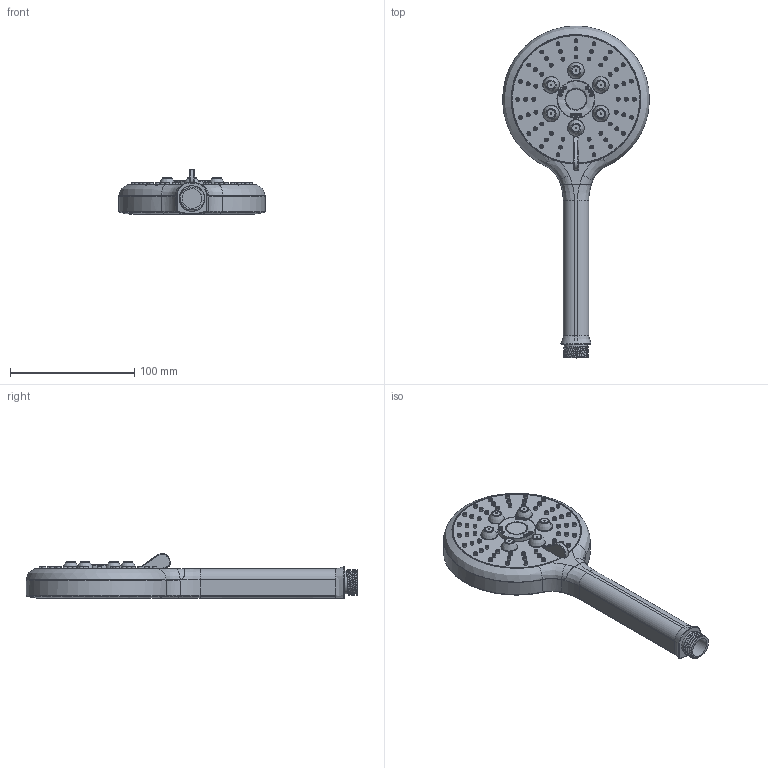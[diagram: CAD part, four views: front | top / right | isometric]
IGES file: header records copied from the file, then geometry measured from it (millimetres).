
Global section: file name: c7cf07e6-44ff-456a-bb89-3e6faebfa86e; native system: unknown; preprocessor: unknown; author: unknown; organization: unknown; date: 20200702.070223; units: millimetre
Bounding box: 118 x 266.91 x 35.75 mm (x, y, z)
Volume: 308810.9 mm3; surface area: 86244.4 mm2
Topology: 6 solids, 6 shells, 516 faces, 1081 edges, 722 vertices
Faces by surface type: bspline 516
